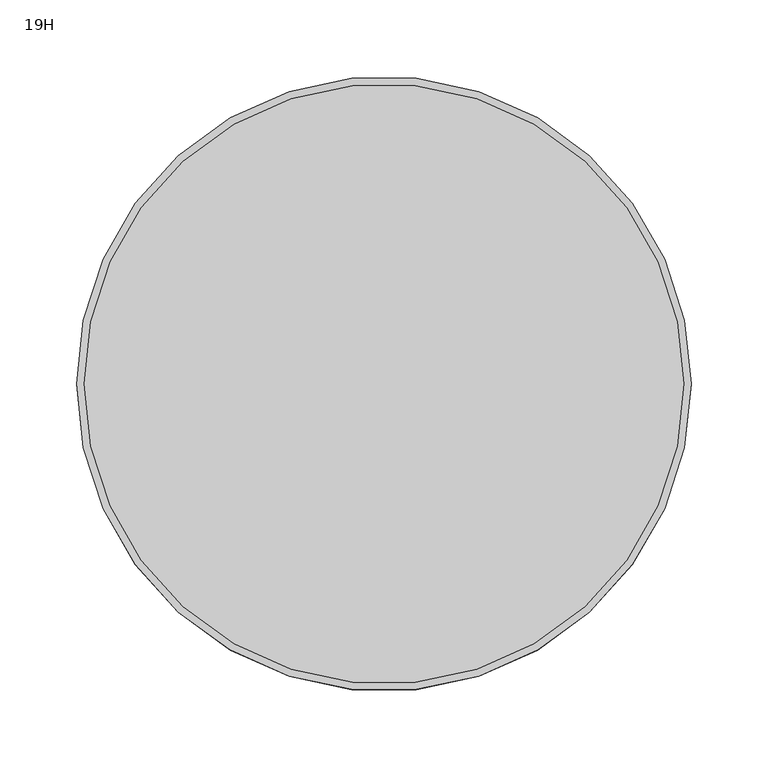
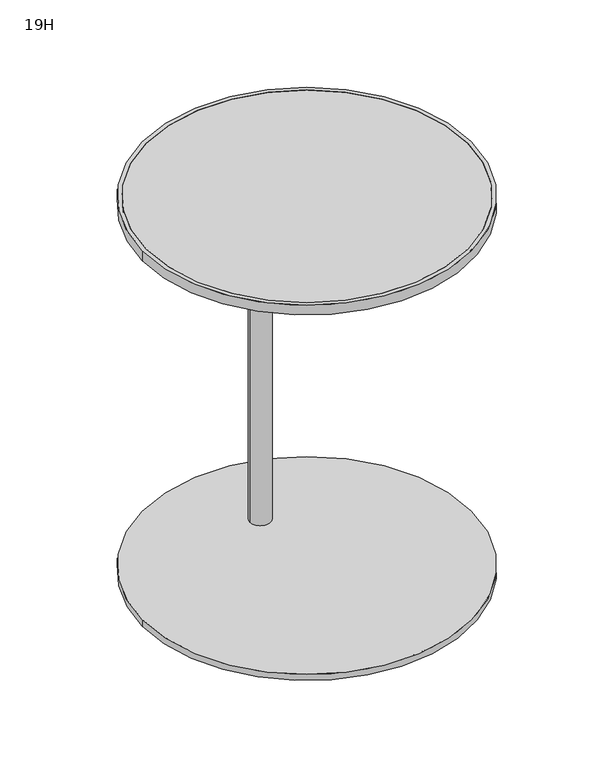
"""IFC4 building model written with IfcOpenShell, lengths in millimetres: furniture geometry, Coalesse_AM_Table_Occasional_Await_Freestanding : 19H."""

from ifc_helpers import new_model, si_unit, point, frame, frame_2d, origin, origin_with_axes, place, context, project, spatial, circle_curve, trimmed, segment, composite_curve, outline, extrude, source, transform, mapped, element, save


def furniture_19h_f9440e0b(model_context):
    return source(origin(), model_context, "Body", "SweptSolid", [
        extrude(outline(composite_curve([segment(trimmed(circle_curve(frame_2d((-416.4141121, 164.7248707)), 200.025), [point((-216.3891121, 164.7248707))], [point((-616.4391121, 164.7248707))], False, "CARTESIAN"), True, "CONTINUOUS"), segment(trimmed(circle_curve(frame_2d((-416.4141121, 164.7248707)), 200.025), [point((-616.4391121, 164.7248707))], [point((-216.3891121, 164.7248707))], False, "CARTESIAN"), True, "CONTINUOUS")], self_intersect=False), holes=[composite_curve([segment(trimmed(circle_curve(frame_2d((-416.4141121, 164.7248707)), 195.2625), [point((-221.1516121, 164.7248707))], [point((-611.6766121, 164.7248707))], True, "CARTESIAN"), True, "CONTINUOUS"), segment(trimmed(circle_curve(frame_2d((-416.4141121, 164.7248707)), 195.2625), [point((-611.6766121, 164.7248707))], [point((-221.1516121, 164.7248707))], True, "CARTESIAN"), True, "CONTINUOUS")], self_intersect=False)]), frame((0.0, 0.0, 469.9), z_axis=(0.0, 0.0, 1.0), x_axis=(1.0, 0.0, 0.0)), (0.0, 0.0, 1.0), 12.7),
        extrude(outline(composite_curve([segment(trimmed(circle_curve(frame_2d((-416.4141121, 164.7248707)), 195.2625), [point((-221.1516121, 164.7248707))], [point((-611.6766121, 164.7248707))], False, "CARTESIAN"), True, "CONTINUOUS"), segment(trimmed(circle_curve(frame_2d((-416.4141121, 164.7248707)), 195.2625), [point((-611.6766121, 164.7248707))], [point((-221.1516121, 164.7248707))], False, "CARTESIAN"), True, "CONTINUOUS")], self_intersect=False)), frame((0.0, 0.0, 469.9), z_axis=(0.0, 0.0, 1.0), x_axis=(1.0, 0.0, 0.0)), (0.0, 0.0, 1.0), 12.7),
        extrude(outline(composite_curve([segment(trimmed(circle_curve(frame_2d((-416.4141121, 164.7248707)), 200.025), [point((-216.3891121, 164.7248707))], [point((-616.4391121, 164.7248707))], False, "CARTESIAN"), True, "CONTINUOUS"), segment(trimmed(circle_curve(frame_2d((-416.4141121, 164.7248707)), 200.025), [point((-616.4391121, 164.7248707))], [point((-216.3891121, 164.7248707))], False, "CARTESIAN"), True, "CONTINUOUS")], self_intersect=False)), origin_with_axes(), (0.0, 0.0, 1.0), 7.9502),
        extrude(outline(composite_curve([segment(trimmed(circle_curve(frame_2d((-416.4141121, 263.1498707)), 12.7), [point((-403.7141121, 263.1498707))], [point((-429.1141121, 263.1498707))], False, "CARTESIAN"), True, "CONTINUOUS"), segment(trimmed(circle_curve(frame_2d((-416.4141121, 263.1498707)), 12.7), [point((-429.1141121, 263.1498707))], [point((-403.7141121, 263.1498707))], False, "CARTESIAN"), True, "CONTINUOUS")], self_intersect=False)), frame((0.0, 0.0, 7.9502), z_axis=(0.0, 0.0, 1.0), x_axis=(1.0, 0.0, 0.0)), (0.0, 0.0, 1.0), 461.9498),
    ])


if __name__ == "__main__":
    model = new_model("IFC4")
    model_context = context("Model", 3, world=origin())
    ifc_project = project(units=[si_unit("LENGTHUNIT", "METRE", prefix="MILLI")], contexts=[model_context])
    site = spatial("IfcSite", under=ifc_project)
    building = spatial("IfcBuilding", under=site)
    placement = place(None, origin())
    furniture_19h_shape = furniture_19h_f9440e0b(model_context)
    element("IfcFurniture", 1, ObjectType="Coalesse_AM_Table_Occasional_Await_Freestanding : 19H", at=placement, inside=building, context=model_context, shape_type="MappedRepresentation", body=[
        mapped(furniture_19h_shape, transform((0.0, 0.0, 0.0), x_axis=(1.0, 0.0, 0.0), y_axis=(0.0, 1.0, 0.0), z_axis=(0.0, 0.0, 1.0))),
    ])
    save(model, "model.ifc")
